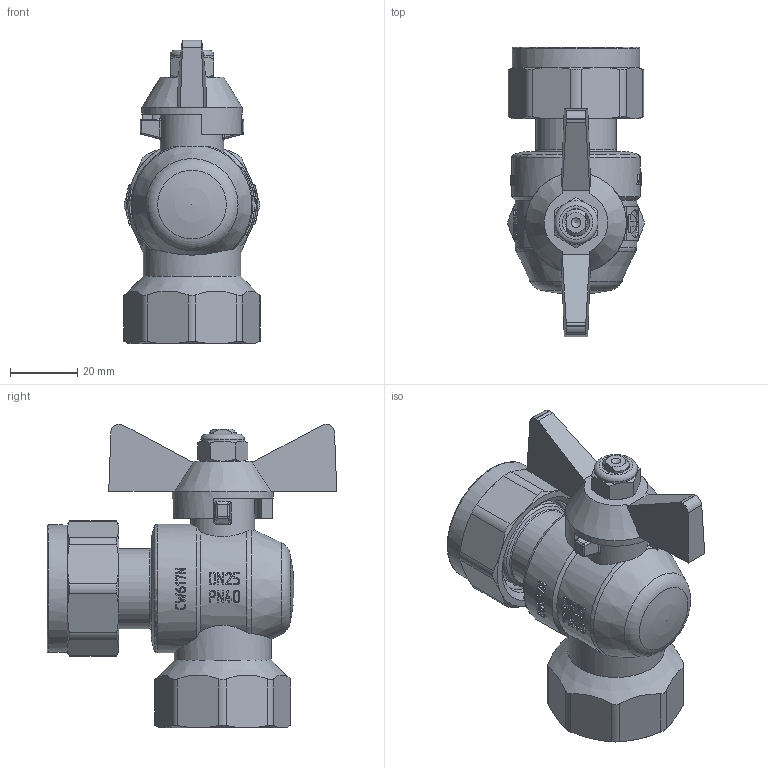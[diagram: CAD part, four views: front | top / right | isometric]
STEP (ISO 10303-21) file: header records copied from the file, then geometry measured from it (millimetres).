
FILE_DESCRIPTION(('STEP AP203'), '1');
FILE_NAME('VT.266.N.0606', '', ('UNSPECIFIED'), ('UNSPECIFIED'), 'C3D Converter', 'C3D Toolkit', '');
FILE_SCHEMA(('CONFIG_CONTROL_DESIGN'));
Length unit declared in the file: millimetre
Products named in the file (1): ВР.491816.032.000 СБ
Bounding box: 40.64 x 86.33 x 90.5 mm (x, y, z)
Volume: 89127.7 mm3; surface area: 26104.1 mm2
Topology: 3 solids, 5 shells, 801 faces, 2149 edges, 1391 vertices
Faces by surface type: plane 308, extrusion 296, cylinder 94, cone 63, bspline 18, torus 17, sphere 5
Full cylindrical faces by diameter (mm): 12.1 x1, 13 x1, 14 x1, 19 x1, 23.9 x1, 24 x1, 27.1 x1, 29 x1, 30 x1, 30.2 x1, 30.292 x2, 30.4 x1, 33.4 x1, 38 x1, 38.3 x1
Entity records: 36817 total; most frequent: CARTESIAN_POINT 18950, ORIENTED_EDGE 4180, DIRECTION 2689, EDGE_CURVE 2090, VERTEX_POINT 1386, VECTOR 1103, B_SPLINE_CURVE_WITH_KNOTS 1097, EDGE_LOOP 884
